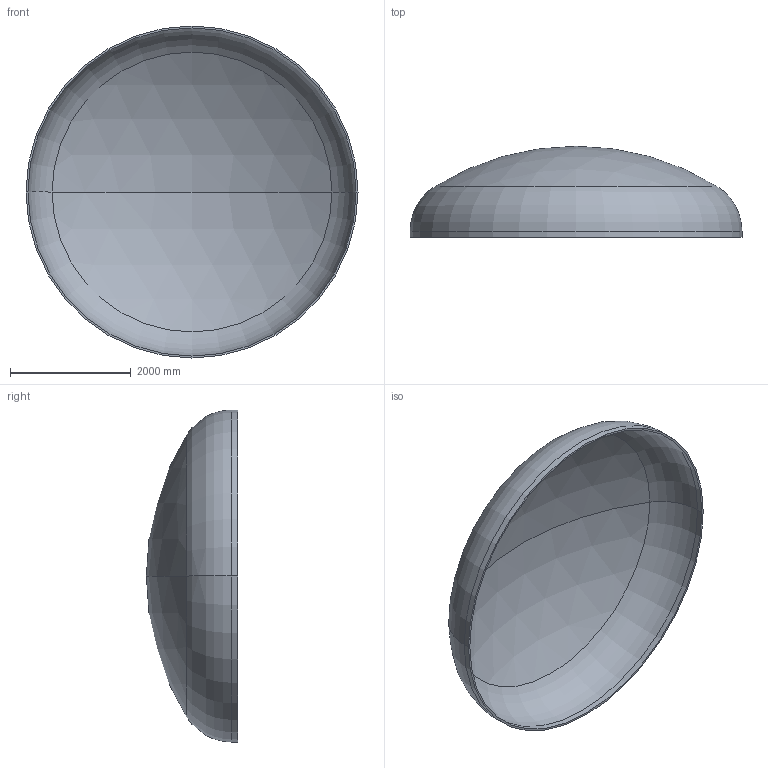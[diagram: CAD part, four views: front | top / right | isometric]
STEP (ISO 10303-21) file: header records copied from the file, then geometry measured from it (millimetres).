
FILE_DESCRIPTION (( 'STEP AP203' ), '1' );
FILE_NAME ('DIN 28013 Korbbogenform_-_Boden DIN 28013 - 5500 x 100 - I - s=32.step', '2016-07-04T10:33:55', ( '' ), ( '' ), 'SwSTEP 2.0', 'SolidWorks 2013', '' );
FILE_SCHEMA (( 'CONFIG_CONTROL_DESIGN' ));
Length unit declared in the file: millimetre
Products named in the file (1): DIN 28013 Korbbogenform_-_Boden DIN 28013 - 5500 x 100 - I - s=32
Bounding box: 5500 x 1510.43 x 5500 mm (x, y, z)
Volume: 1099403118 mm3; surface area: 69264515.9 mm2
Topology: 1 solids, 1 shells, 13 faces, 24 edges, 14 vertices
Faces by surface type: torus 4, cylinder 4, sphere 4, plane 1
Entity records: 407 total; most frequent: DIRECTION 72, CARTESIAN_POINT 52, ORIENTED_EDGE 48, AXIS2_PLACEMENT_3D 34, EDGE_CURVE 24, CIRCLE 20, VERTEX_POINT 14, EDGE_LOOP 14
